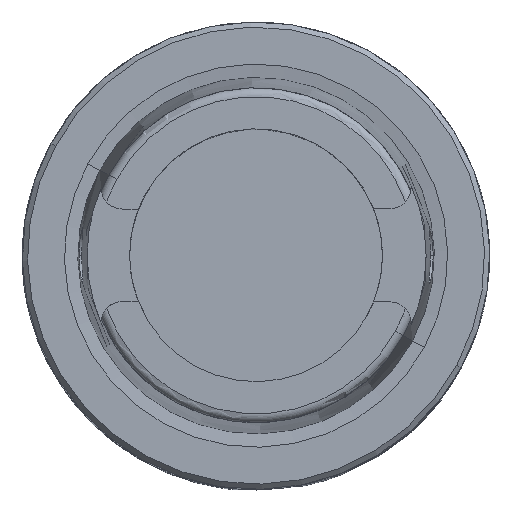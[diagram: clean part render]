
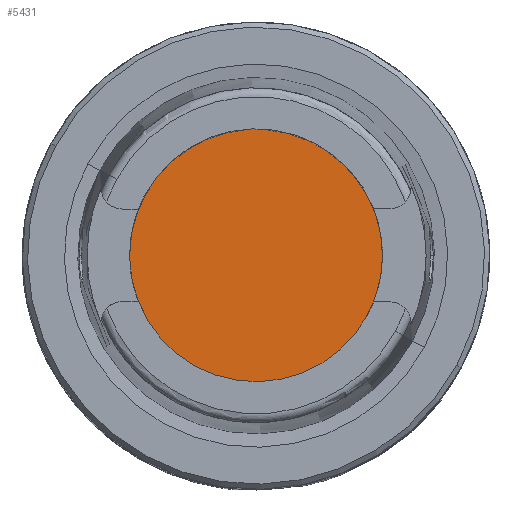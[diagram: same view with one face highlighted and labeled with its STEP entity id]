
A CAD part, top view. The second image highlights one B-rep face of the part: STEP entity #5431.
In plain terms, the highlighted planar face has unit normal (0, 0, 1).
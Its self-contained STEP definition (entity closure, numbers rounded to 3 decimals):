
#5344=AXIS2_PLACEMENT_3D('Circle Axis2P3D',#5342,#5343,$) ;
#5383=AXIS2_PLACEMENT_3D('Circle Axis2P3D',#5381,#5382,$) ;
#5407=AXIS2_PLACEMENT_3D('Circle Axis2P3D',#5405,#5406,$) ;
#5424=AXIS2_PLACEMENT_3D('Plane Axis2P3D',#5421,#5422,#5423) ;
#5339=CARTESIAN_POINT('Vertex',(17.025,0.,-10.)) ;
#5342=CARTESIAN_POINT('Axis2P3D Location',(0.,0.,-10.)) ;
#5346=CARTESIAN_POINT('Vertex',(-17.025,0.,-10.)) ;
#5381=CARTESIAN_POINT('Axis2P3D Location',(0.,0.,-10.)) ;
#5385=CARTESIAN_POINT('Vertex',(-14.941,8.162,-10.)) ;
#5405=CARTESIAN_POINT('Axis2P3D Location',(0.,0.,-10.)) ;
#5421=CARTESIAN_POINT('Axis2P3D Location',(-15.725,0.,-10.)) ;
#5343=DIRECTION('Axis2P3D Direction',(0.,0.,-1.)) ;
#5382=DIRECTION('Axis2P3D Direction',(0.,0.,-1.)) ;
#5406=DIRECTION('Axis2P3D Direction',(0.,0.,-1.)) ;
#5422=DIRECTION('Axis2P3D Direction',(0.,0.,-1.)) ;
#5423=DIRECTION('Axis2P3D XDirection',(-1.,0.,0.)) ;
#5427=ORIENTED_EDGE('',*,*,#5409,.F.) ;
#5428=ORIENTED_EDGE('',*,*,#5387,.F.) ;
#5429=ORIENTED_EDGE('',*,*,#5348,.F.) ;
#5431=ADVANCED_FACE('NOCUT',(#5430),#5425,.F.) ;
#5345=CIRCLE('generated circle',#5344,17.025) ;
#5384=CIRCLE('generated circle',#5383,17.025) ;
#5408=CIRCLE('generated circle',#5407,17.025) ;
#5348=EDGE_CURVE('',#5340,#5347,#5345,.T.) ;
#5387=EDGE_CURVE('',#5347,#5386,#5384,.T.) ;
#5409=EDGE_CURVE('',#5386,#5340,#5408,.T.) ;
#5426=EDGE_LOOP('',(#5427,#5428,#5429)) ;
#5430=FACE_OUTER_BOUND('',#5426,.T.) ;
#5425=PLANE('',#5424) ;
#5340=VERTEX_POINT('',#5339) ;
#5347=VERTEX_POINT('',#5346) ;
#5386=VERTEX_POINT('',#5385) ;
